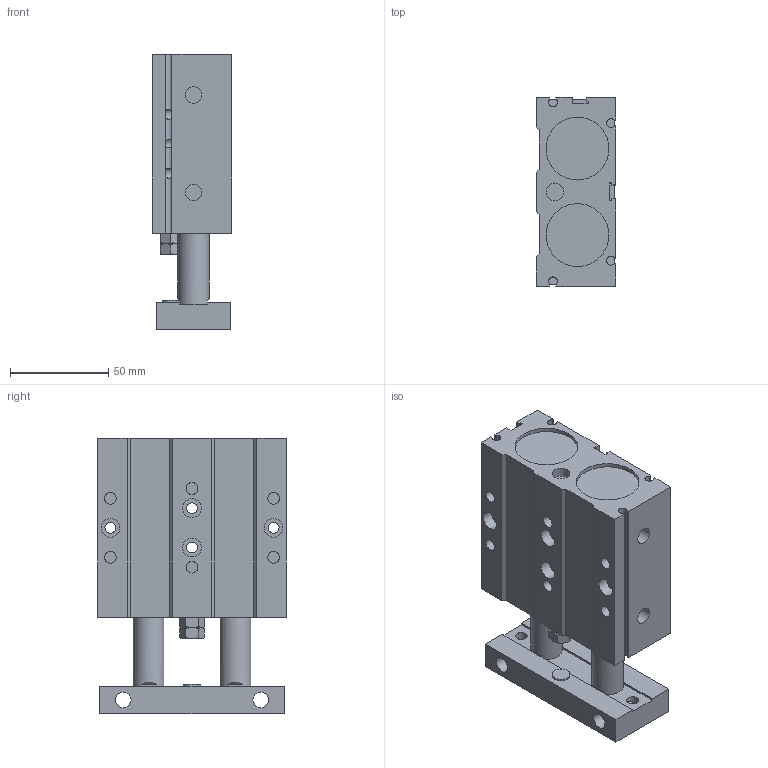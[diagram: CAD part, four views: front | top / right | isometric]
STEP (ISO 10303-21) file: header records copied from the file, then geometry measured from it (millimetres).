
FILE_DESCRIPTION((''),'2;1');
FILE_NAME('I:\3D電子目錄\氣缸\TD\TD32\TD32\TD32x25.stp','2007-08-06T10:17:58',('Administrator'),(''),'Autodesk Inventor 2008','Autodesk Inventor 2008','');
FILE_SCHEMA(('AUTOMOTIVE_DESIGN { 1 0 10303 214 1 1 1 1 }'));
Length unit declared in the file: millimetre
Products named in the file (1): TD32X25
Bounding box: 40.5 x 96 x 140 mm (x, y, z)
Volume: 379874.7 mm3; surface area: 61295 mm2
Topology: 1 solids, 3 shells, 186 faces, 458 edges, 304 vertices
Faces by surface type: plane 131, cylinder 42, cone 7, bspline 4, torus 2
Full cylindrical faces by diameter (mm): 5.5 x4, 6 x8, 8 x2, 8.5 x2, 9 x2, 9.5 x8, 12 x2, 13 x2, 14 x2, 16 x2, 32 x4
Entity records: 6063 total; most frequent: CARTESIAN_POINT 1776, DIRECTION 851, ORIENTED_EDGE 802, EDGE_CURVE 401, EDGE_LOOP 297, AXIS2_PLACEMENT_3D 295, VERTEX_POINT 294, VECTOR 261
